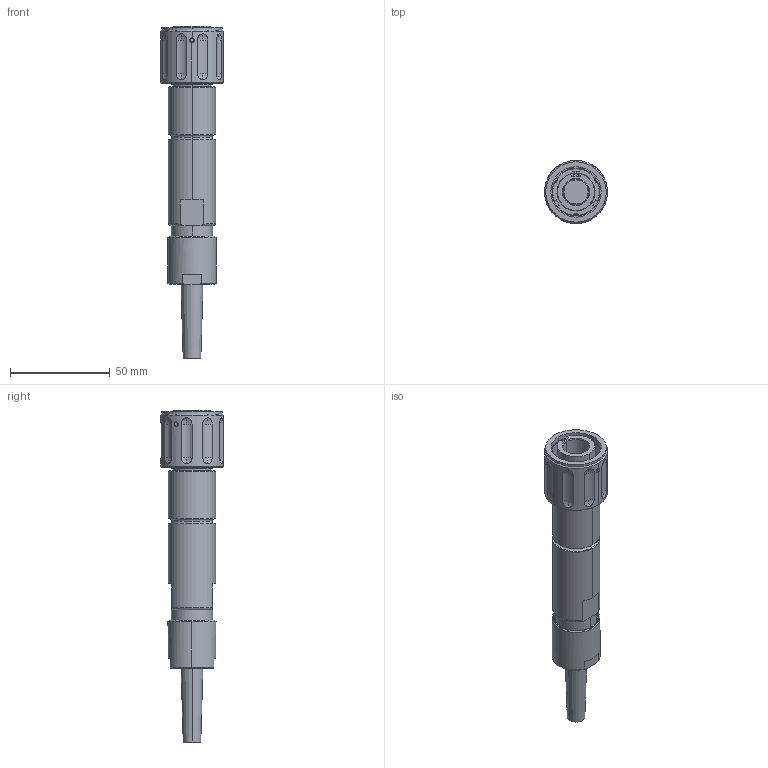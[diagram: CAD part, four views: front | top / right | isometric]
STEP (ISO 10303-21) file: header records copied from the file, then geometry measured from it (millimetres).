
FILE_DESCRIPTION (( 'STEP AP214' ), '1' );
FILE_NAME ('QLINK-PGBX-13XX-SXXX-RA.STEP', '2025-12-09T15:32:11', ( '' ), ( '' ), 'SwSTEP 2.0', 'SolidWorks 2024', '' );
FILE_SCHEMA (( 'AUTOMOTIVE_DESIGN' ));
Length unit declared in the file: millimetre
Products named in the file (1): QLINK-PGBX-13XX-SXXX-RA
Bounding box: 31.62 x 31.62 x 166.83 mm (x, y, z)
Volume: 61924.7 mm3; surface area: 18340.2 mm2
Topology: 5 solids, 5 shells, 231 faces, 546 edges, 344 vertices
Faces by surface type: cylinder 73, plane 57, cone 49, sphere 36, torus 10, bspline 6
Entity records: 9652 total; most frequent: CARTESIAN_POINT 4236, DIRECTION 1168, ORIENTED_EDGE 1088, EDGE_CURVE 544, AXIS2_PLACEMENT_3D 484, VERTEX_POINT 344, EDGE_LOOP 260, CIRCLE 258
